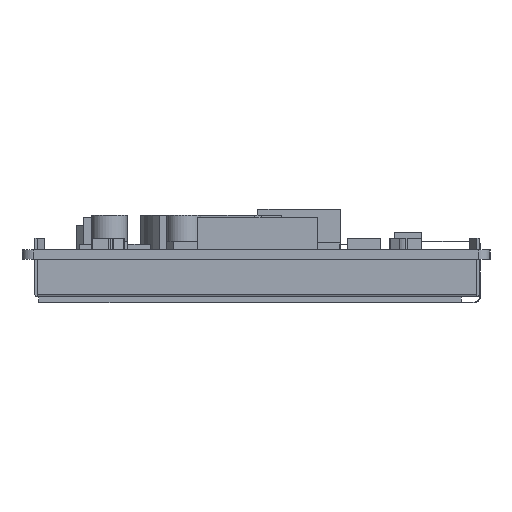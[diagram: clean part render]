
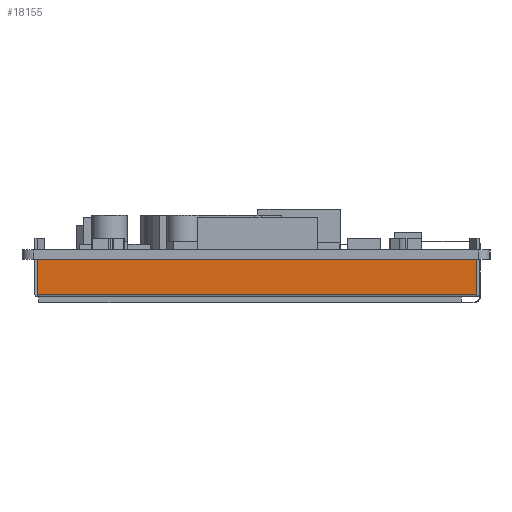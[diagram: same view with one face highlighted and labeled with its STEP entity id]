
A CAD part, left-side view. The second image highlights one B-rep face of the part: STEP entity #18155.
In plain terms, the highlighted planar face has unit normal (-1, 0, 0).
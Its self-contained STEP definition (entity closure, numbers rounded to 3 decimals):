
#18155=ADVANCED_FACE('',(#22249),#20195,.F.);
#20195=PLANE('',#50547);
#22249=FACE_OUTER_BOUND('',#24370,.T.);
#24370=EDGE_LOOP('',(#32296,#32297,#32298,#32299));
#32296=ORIENTED_EDGE('',*,*,#39891,.F.);
#32297=ORIENTED_EDGE('',*,*,#39892,.T.);
#32298=ORIENTED_EDGE('',*,*,#39893,.T.);
#32299=ORIENTED_EDGE('',*,*,#39894,.T.);
#35742=VERTEX_POINT('',#67797);
#35743=VERTEX_POINT('',#67798);
#35744=VERTEX_POINT('',#67800);
#35745=VERTEX_POINT('',#67802);
#39891=EDGE_CURVE('',#35742,#35743,#44091,.T.);
#39892=EDGE_CURVE('',#35742,#35744,#44092,.T.);
#39893=EDGE_CURVE('',#35744,#35745,#44093,.T.);
#39894=EDGE_CURVE('',#35745,#35743,#44094,.T.);
#44091=LINE('',#67796,#48216);
#44092=LINE('',#67799,#48217);
#44093=LINE('',#67801,#48218);
#44094=LINE('',#67803,#48219);
#48216=VECTOR('',#58483,1.);
#48217=VECTOR('',#58484,1.);
#48218=VECTOR('',#58485,1.);
#48219=VECTOR('',#58486,1.);
#50547=AXIS2_PLACEMENT_3D('',#67804,#58487,#58488);
#58483=DIRECTION('',(0.,0.,1.));
#58484=DIRECTION('',(0.,-1.,0.));
#58485=DIRECTION('',(0.,0.,1.));
#58486=DIRECTION('',(0.,1.,0.));
#58487=DIRECTION('',(1.,0.,0.));
#58488=DIRECTION('',(0.,1.,0.));
#67796=CARTESIAN_POINT('',(59.66,54.82,-8.1));
#67797=CARTESIAN_POINT('',(59.66,54.82,-7.7));
#67798=CARTESIAN_POINT('',(59.66,54.82,-1.6));
#67799=CARTESIAN_POINT('',(59.66,-21.2,-7.7));
#67800=CARTESIAN_POINT('',(59.66,-21.2,-7.7));
#67801=CARTESIAN_POINT('',(59.66,-21.2,-8.1));
#67802=CARTESIAN_POINT('',(59.66,-21.2,-1.6));
#67803=CARTESIAN_POINT('',(59.66,-21.2,-1.6));
#67804=CARTESIAN_POINT('',(59.66,-21.2,-8.1));
